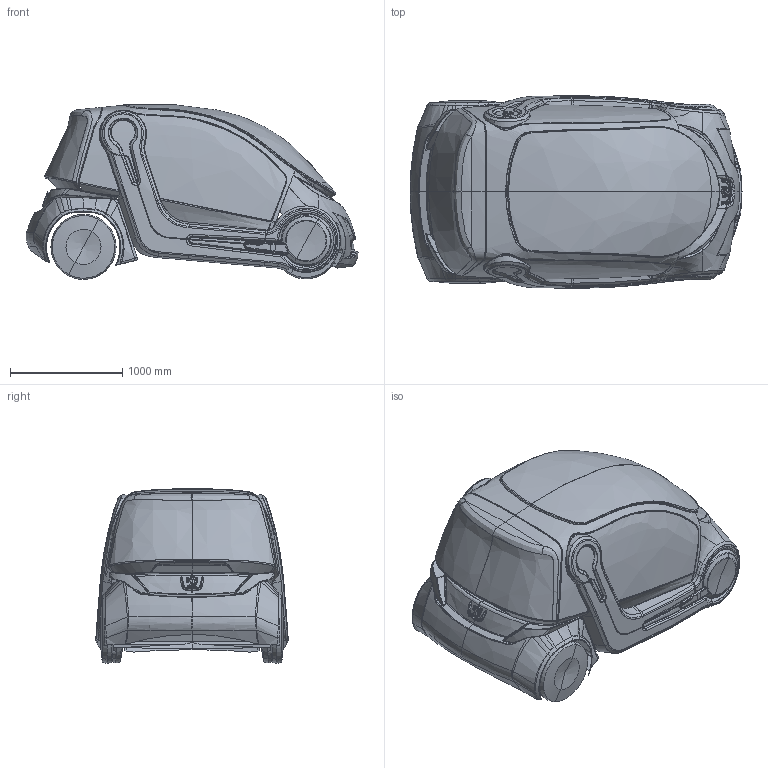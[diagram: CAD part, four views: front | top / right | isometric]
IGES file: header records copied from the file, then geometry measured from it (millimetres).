
Start section: START RECORD GO HERE.
Global section: file name: City car.igs; native system: DASSAULT SYSTEMES CATIA V5 R20 - www.3ds.com; preprocessor: CATIA Version 5 Release 20 SP 5 ; author: Admin; organization: DESIGNMACHINE; date: 20110802.161339; units: millimetre
Bounding box: 2953.92 x 1711.74 x 1557.08 mm (x, y, z)
Surface area: 25048961.4 mm2 (no closed solid volume)
Topology: 0 solids, 0 shells, 2099 faces, 10213 edges, 10171 vertices
Faces by surface type: bspline 1492, revolution 292, plane 162, extrusion 153
